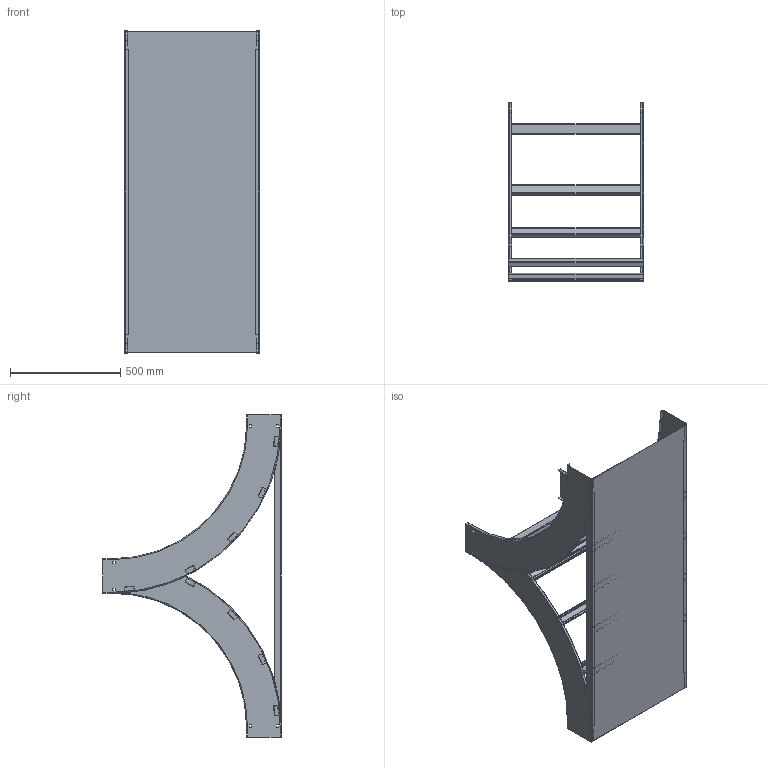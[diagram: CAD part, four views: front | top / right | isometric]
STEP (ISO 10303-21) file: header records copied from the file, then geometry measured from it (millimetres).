
FILE_DESCRIPTION((''),'2;1');
FILE_NAME('AUF624SVTU24_ASM','2010-01-27T',('erouzier'),(''),'PRO/ENGINEER BY PARAMETRIC TECHNOLOGY CORPORATION, 2008510','PRO/ENGINEER BY PARAMETRIC TECHNOLOGY CORPORATION, 2008510','');
FILE_SCHEMA(('CONFIG_CONTROL_DESIGN'));
Length unit declared in the file: inch
Products named in the file (8): CDS001418_6_90_24; CDS001418_6_90_24_AF2; CDS001418_6_90_24_AF3; CDS002159L24; CDS015036_6_24_24; CDS000495_GEN_AF6; CDS000495_GEN_AF7; AUF624SVTU24_ASM
Assembly tree (20 placements, depth 2):
  AUF624SVTU24_ASM
    CDS001418_6_90_24  x2
    CDS001418_6_90_24_AF2
    CDS001418_6_90_24_AF3
    CDS002159L24  x13
    CDS015036_6_24_24
    CDS000495_GEN_AF6
    CDS000495_GEN_AF7
Bounding box: 615.95 x 811.58 x 1464.61 mm (x, y, z)
Volume: 3915389.5 mm3; surface area: 5482637.4 mm2
Topology: 20 solids, 20 shells, 614 faces, 1616 edges, 1042 vertices
Faces by surface type: plane 407, cylinder 191, torus 16
Entity records: 6024 total; most frequent: CARTESIAN_POINT 1086, DIRECTION 1028, ORIENTED_EDGE 944, EDGE_CURVE 472, VECTOR 344, LINE 344, AXIS2_PLACEMENT_3D 342, VERTEX_POINT 290
